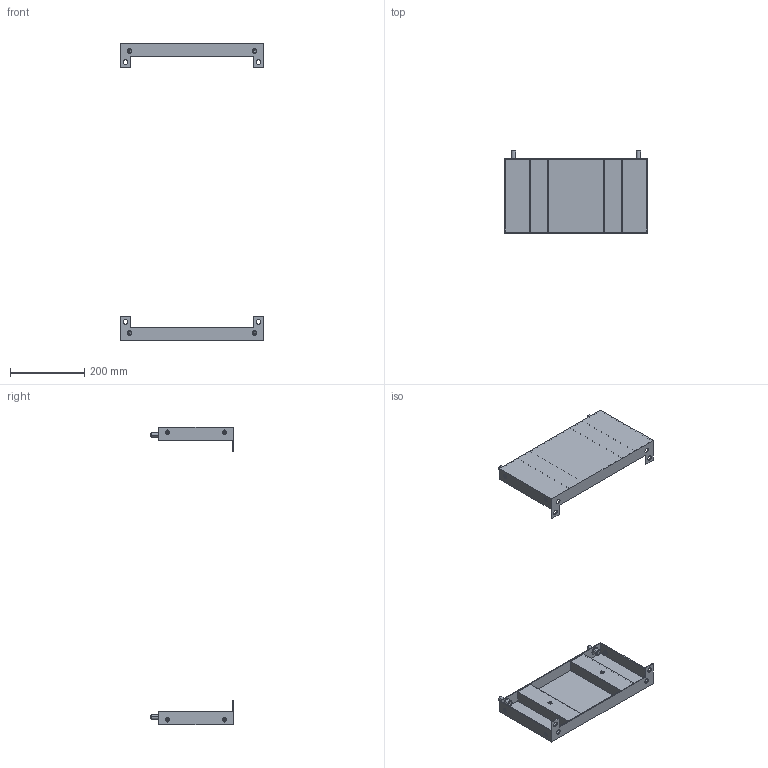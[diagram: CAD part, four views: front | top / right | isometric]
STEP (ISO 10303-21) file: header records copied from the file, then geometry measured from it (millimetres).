
FILE_DESCRIPTION (( 'STEP AP203' ), '1' );
FILE_NAME ('R6PLB45-200 H=800 SIMPLE.STEP', '2026-07-22T11:11:52', ( '' ), ( '' ), 'SwSTEP 2.0', 'SolidWorks 2022', '' );
FILE_SCHEMA (( 'CONFIG_CONTROL_DESIGN' ));
Length unit declared in the file: millimetre
Products named in the file (8): R6PLB45-200 H=800 SIMPLE; M12x25 DIN 912 HX cl.8,8 Zinc_stright; M6 MGS-MPO-0635_straight; РГМЦ.RB.3309.00.01.0 simple_-07; 12 DIN 6798 A Zinc; M6 MGS-MPO-0635_thread; РГМЦ.RB.3309.00.00.0 СБ SIMPLE 04-07_-07; РГМЦ.RB.3309.00.02.0 simple_-01
Assembly tree (19 placements, depth 3):
  R6PLB45-200 H=800 SIMPLE
    РГМЦ.RB.3309.00.00.0 СБ SIMPLE 04-07_-07  x2
      РГМЦ.RB.3309.00.01.0 simple_-07
      M6 MGS-MPO-0635_thread
      РГМЦ.RB.3309.00.02.0 simple_-01
      M6 MGS-MPO-0635_straight
    12 DIN 6798 A Zinc  x4
    M12x25 DIN 912 HX cl.8,8 Zinc_stright  x4
Bounding box: 386.7 x 221.5 x 800 mm (x, y, z)
Volume: 807326.6 mm3; surface area: 660285.8 mm2
Topology: 26 solids, 26 shells, 1468 faces, 3828 edges, 2188 vertices
Faces by surface type: plane 556, cylinder 544, bspline 152, sphere 144, cone 40, torus 32
Entity records: 13372 total; most frequent: CARTESIAN_POINT 5039, ORIENTED_EDGE 1540, DIRECTION 1409, EDGE_CURVE 770, VERTEX_POINT 482, AXIS2_PLACEMENT_3D 473, VECTOR 463, LINE 463
